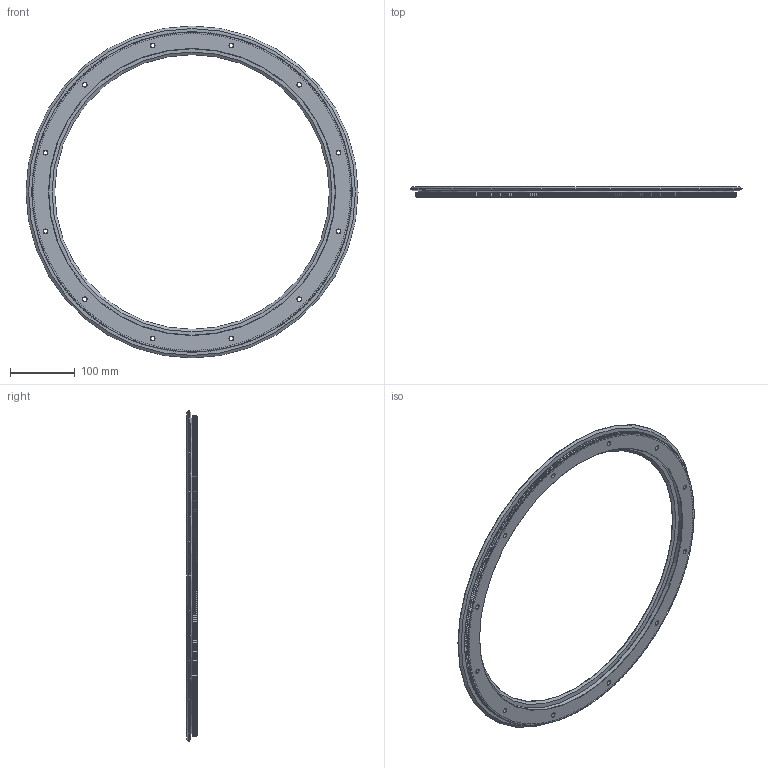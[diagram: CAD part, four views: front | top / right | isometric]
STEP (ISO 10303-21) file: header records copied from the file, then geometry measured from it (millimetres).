
FILE_DESCRIPTION( ( 'STEP AP203' ), '1' );
FILE_NAME( 'p:/temp/worker_34/temp/exporttempdir_3528_579_xGaJY/format_0/R44 468 R360 P.stp', '2021-07-19T05:41:06', ( 'License CC BY-ND 4.0' ), ( 'CADENAS' ), ' ', 'PARTsolutions', ' ' );
FILE_SCHEMA( ( 'CONFIG_CONTROL_DESIGN' ) );
Length unit declared in the file: millimetre
Products named in the file (1): _R44 468 R360 P
Bounding box: 512.19 x 15.5 x 512.19 mm (x, y, z)
Volume: 678016 mm3; surface area: 193708.5 mm2
Topology: 1 solids, 1 shells, 3015 faces, 7993 edges, 4995 vertices
Faces by surface type: plane 1985, cylinder 519, cone 509, torus 2
Full cylindrical faces by diameter (mm): 6.8 x12, 11 x12, 442 x1, 447.2 x1, 488.8 x1
Entity records: 93478 total; most frequent: CARTESIAN_POINT 18909, ORIENTED_EDGE 15892, DIRECTION 15528, EDGE_CURVE 7946, AXIS2_PLACEMENT_3D 5550, VERTEX_POINT 4995, LINE 4428, VECTOR 4428
